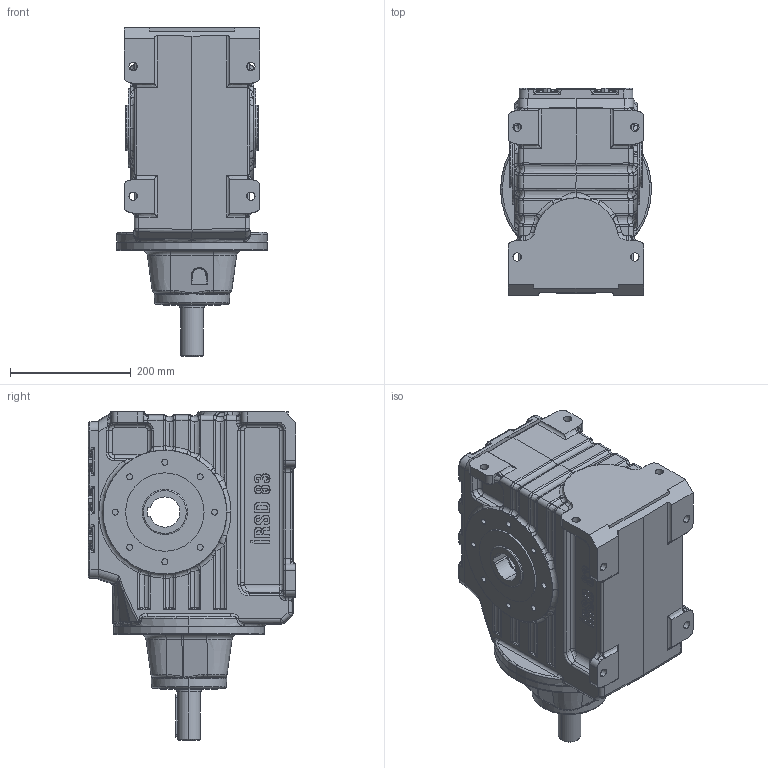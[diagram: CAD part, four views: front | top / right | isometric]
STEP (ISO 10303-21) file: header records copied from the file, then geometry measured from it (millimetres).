
FILE_DESCRIPTION (( 'STEP AP203' ), '1' );
FILE_NAME ('IRSD 83.step', '2023-11-17T15:23:07', ( '' ), ( '' ), 'SwSTEP 2.0', 'SolidWorks 2022', '' );
FILE_SCHEMA (( 'CONFIG_CONTROL_DESIGN' ));
Length unit declared in the file: millimetre
Products named in the file (4): Şase_Ø250; IRSD 83; M.suz Kapak İR83,94,104, YP93,104,124, İRK93,104,124, İRSD83, İRC83; IRSD 83-_IRSD 83
Assembly tree (3 placements, depth 2):
  IRSD 83
    Şase_Ø250
    IRSD 83-_IRSD 83
    M.suz Kapak İR83,94,104, YP93,104,124, İRK93,104,124, İRSD83, İRC83
Bounding box: 250 x 344 x 544 mm (x, y, z)
Volume: 24057739.3 mm3; surface area: 856962.2 mm2
Topology: 3 solids, 3 shells, 1832 faces, 4561 edges, 2731 vertices
Faces by surface type: bspline 801, cylinder 493, plane 438, torus 52, cone 42, sphere 6
Entity records: 96888 total; most frequent: CARTESIAN_POINT 59273, ORIENTED_EDGE 8972, DIRECTION 5984, EDGE_CURVE 4486, VERTEX_POINT 2731, AXIS2_PLACEMENT_3D 2225, EDGE_LOOP 1947, ADVANCED_FACE 1832
